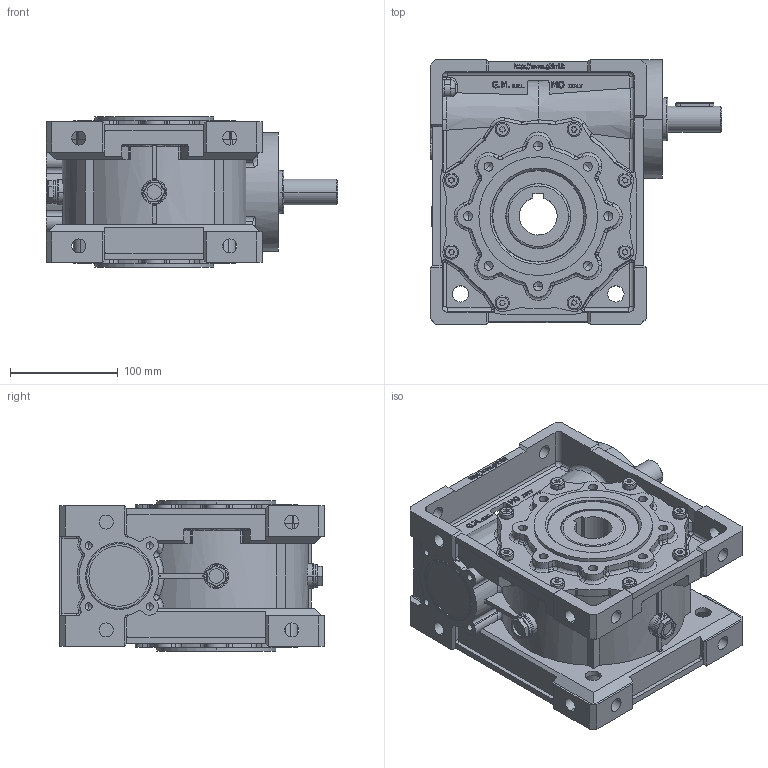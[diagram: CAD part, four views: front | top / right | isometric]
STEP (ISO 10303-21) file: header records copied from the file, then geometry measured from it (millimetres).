
FILE_DESCRIPTION((''),'2;1');
FILE_NAME('\\Gmtech3\usr\3D\MV_V\90\STP\V90.stp','2005-06-17T16:17:58',('tech2'),(''),'Autodesk Inventor 9','Autodesk Inventor 9','');
FILE_SCHEMA(('AUTOMOTIVE_DESIGN { 1 0 10303 214 1 1 1 1 }'));
Length unit declared in the file: millimetre
Products named in the file (12): V90; 4009001-A0; 4009004-A0; TCCE-8X20-ribassata; 4009008-A0; UNI-ISO 6194-1 (4) Tipo4 60 x  85 x  8; Capp-62-7; Guarnizione-tappo-3-8-gas; Tappo-3-8-gas-nero; VITE_MV90; Paraolio-40-68-7; UNI 6604  A A 8 x 7 x 35
Assembly tree (23 placements, depth 2):
  V90
    4009001-A0
    4009004-A0
    TCCE-8X20-ribassata  x8
    4009008-A0
    UNI-ISO 6194-1 (4) Tipo4 60 x  85 x  8  x2
    Capp-62-7
    Guarnizione-tappo-3-8-gas  x3
    Tappo-3-8-gas-nero  x3
    VITE_MV90
    Paraolio-40-68-7
    UNI 6604  A A 8 x 7 x 35
Bounding box: 270 x 245 x 139 mm (x, y, z)
Volume: 3837993.3 mm3; surface area: 555861.9 mm2
Topology: 23 solids, 26 shells, 2742 faces, 7089 edges, 4515 vertices
Faces by surface type: plane 1116, cylinder 822, bspline 683, cone 67, torus 54
Entity records: 85561 total; most frequent: CARTESIAN_POINT 27661, ORIENTED_EDGE 12634, DIRECTION 11053, EDGE_CURVE 6317, VERTEX_POINT 4103, VECTOR 3699, LINE 3699, AXIS2_PLACEMENT_3D 3677
